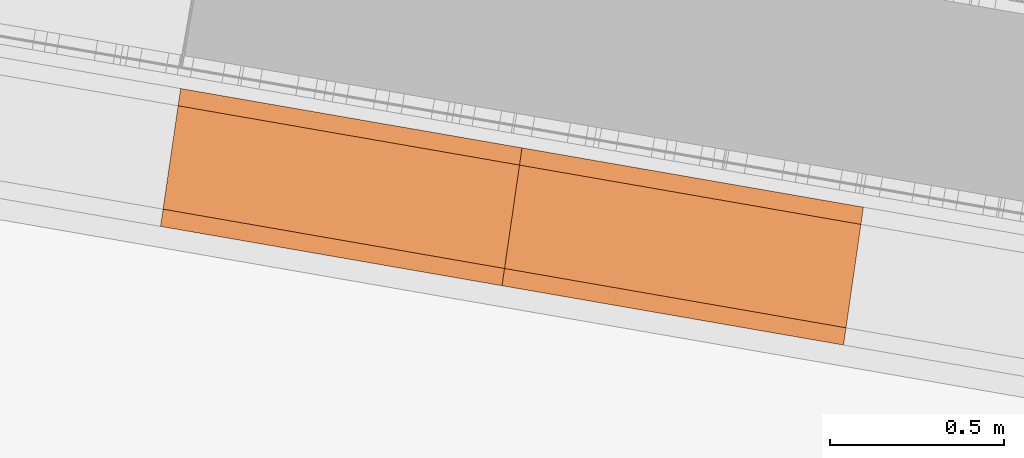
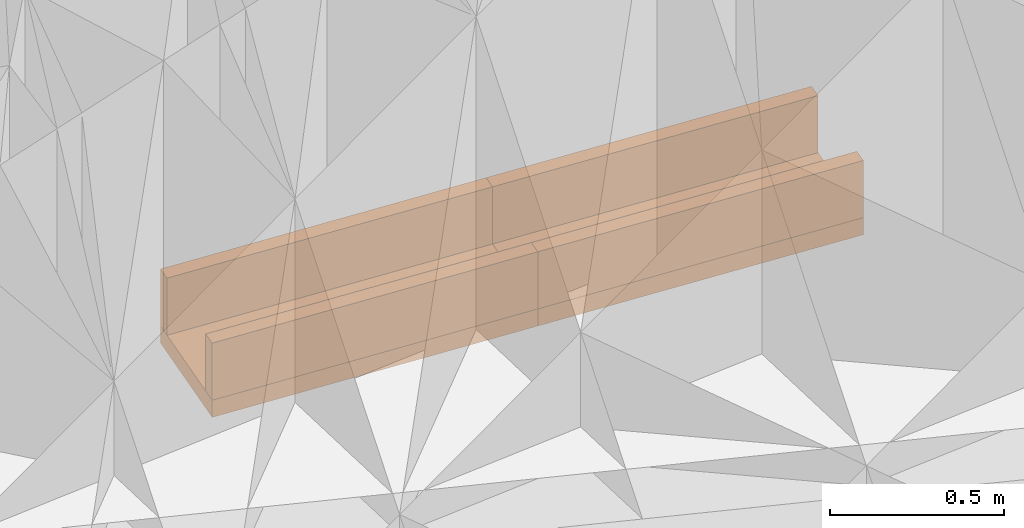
# Not in any storey, part 20 of 46: 6 proxies.
"""IFC4 model written with IfcOpenShell, lengths in metres."""

from ifc_helpers import new_model, si_unit, direction, frame, origin_with_axes, place, context, subcontext, project, spatial, polygons, material, element, save


model = new_model("IFC4")

# Units and contexts
model_context = context("Model", 3, precision=1e-05, world=origin_with_axes(), true_north=direction((0.0, 1.0)))
body_context = subcontext(model_context, "Body", "Model", "MODEL_VIEW")
ifc_project = project(units=[si_unit("VOLUMEUNIT", "CUBIC_METRE"), si_unit("LENGTHUNIT", "METRE"), si_unit("AREAUNIT", "SQUARE_METRE")], contexts=[model_context])

# Site
site_placement = place(None, origin_with_axes())
site = spatial("IfcSite", under=ifc_project, at=site_placement, Name="Lares · Rua das Mercês · artigo 4771")

# Proxies
ifc_material = material(Name="Caleiras · betão", Category="concrete")
proxy_1_placement = place(site_placement, frame((0.0, 0.0, 0.0), z_axis=(0.0, 0.0, 1.0), x_axis=(1.0, -1.03767253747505e-17, 0.0)))
element("IfcBuildingElementProxy", 1, at=proxy_1_placement, inside=site, material=ifc_material, Name="Acesso · canal lateral", ObjectType="Acesso · canal lateral", PredefinedType="USERDEFINED", context=body_context, shape_type="Tessellation", body=[
    polygons([(50.8592232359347, 11.2561532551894, 13.4), (50.9168276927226, 11.6519836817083, 13.4), (51.8972603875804, 11.4816580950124, 13.48), (51.8396559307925, 11.0858276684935, 13.48), (50.8592232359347, 11.2561532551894, 13.46), (50.9168276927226, 11.6519836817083, 13.46), (51.8972603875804, 11.4816580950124, 13.54), (51.8396559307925, 11.0858276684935, 13.54)], [[[4, 3, 2, 1]], [[5, 6, 7, 8]], [[1, 2, 6, 5]], [[2, 3, 7, 6]], [[3, 4, 8, 7]], [[4, 1, 5, 8]]]),
])
proxy_2_placement = place(site_placement, frame((0.0, 0.0, 0.0), z_axis=(0.0, 0.0, 1.0), x_axis=(1.0, -1.03767253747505e-17, 0.0)))
element("IfcBuildingElementProxy", 2, at=proxy_2_placement, inside=site, material=ifc_material, Name="Acesso · canal lateral", ObjectType="Acesso · canal lateral", PredefinedType="USERDEFINED", context=body_context, shape_type="Tessellation", body=[
    polygons([(50.8592232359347, 11.2561532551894, 13.46), (50.8664237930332, 11.3056320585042, 13.46), (51.846856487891, 11.1353064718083, 13.54), (51.8396559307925, 11.0858276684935, 13.54), (50.8592232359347, 11.2561532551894, 13.66), (50.8664237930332, 11.3056320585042, 13.66), (51.846856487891, 11.1353064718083, 13.74), (51.8396559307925, 11.0858276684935, 13.74)], [[[4, 3, 2, 1]], [[5, 6, 7, 8]], [[1, 2, 6, 5]], [[2, 3, 7, 6]], [[3, 4, 8, 7]], [[4, 1, 5, 8]]]),
])
proxy_3_placement = place(site_placement, frame((0.0, 0.0, 0.0), z_axis=(0.0, 0.0, 1.0), x_axis=(1.0, -1.03767253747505e-17, 0.0)))
element("IfcBuildingElementProxy", 3, at=proxy_3_placement, inside=site, material=ifc_material, Name="Acesso · canal lateral", ObjectType="Acesso · canal lateral", PredefinedType="USERDEFINED", context=body_context, shape_type="Tessellation", body=[
    polygons([(50.9096271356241, 11.6025048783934, 13.46), (50.9168276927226, 11.6519836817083, 13.46), (51.8972603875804, 11.4816580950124, 13.54), (51.8900598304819, 11.4321792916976, 13.54), (50.9096271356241, 11.6025048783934, 13.66), (50.9168276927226, 11.6519836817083, 13.66), (51.8972603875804, 11.4816580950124, 13.74), (51.8900598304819, 11.4321792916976, 13.74)], [[[4, 3, 2, 1]], [[5, 6, 7, 8]], [[1, 2, 6, 5]], [[2, 3, 7, 6]], [[3, 4, 8, 7]], [[4, 1, 5, 8]]]),
])
proxy_4_placement = place(site_placement, frame((0.0, 0.0, 0.0), z_axis=(0.0, 0.0, 1.0), x_axis=(1.0, -1.03767253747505e-17, 0.0)))
element("IfcBuildingElementProxy", 4, at=proxy_4_placement, inside=site, material=ifc_material, Name="Acesso · canal lateral", ObjectType="Acesso · canal lateral", PredefinedType="USERDEFINED", context=body_context, shape_type="Tessellation", body=[
    polygons([(51.8398849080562, 11.0857944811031, 13.48), (51.8970314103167, 11.4816912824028, 13.48), (52.8774568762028, 11.3113663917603, 13.56), (52.8203103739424, 10.9154695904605, 13.56), (51.8398849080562, 11.0857944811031, 13.54), (51.8970314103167, 11.4816912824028, 13.54), (52.8774568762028, 11.3113663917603, 13.62), (52.8203103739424, 10.9154695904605, 13.62)], [[[4, 3, 2, 1]], [[5, 6, 7, 8]], [[1, 2, 6, 5]], [[2, 3, 7, 6]], [[3, 4, 8, 7]], [[4, 1, 5, 8]]]),
])
proxy_5_placement = place(site_placement, frame((0.0, 0.0, 0.0), z_axis=(0.0, 0.0, 1.0), x_axis=(1.0, -1.03767253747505e-17, 0.0)))
element("IfcBuildingElementProxy", 5, at=proxy_5_placement, inside=site, material=ifc_material, Name="Acesso · canal lateral", ObjectType="Acesso · canal lateral", PredefinedType="USERDEFINED", context=body_context, shape_type="Tessellation", body=[
    polygons([(51.8398849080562, 11.0857944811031, 13.54), (51.8470282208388, 11.1352815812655, 13.54), (52.8274536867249, 10.9649566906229, 13.62), (52.8203103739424, 10.9154695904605, 13.62), (51.8398849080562, 11.0857944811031, 13.74), (51.8470282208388, 11.1352815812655, 13.74), (52.8274536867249, 10.9649566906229, 13.82), (52.8203103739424, 10.9154695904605, 13.82)], [[[4, 3, 2, 1]], [[5, 6, 7, 8]], [[1, 2, 6, 5]], [[2, 3, 7, 6]], [[3, 4, 8, 7]], [[4, 1, 5, 8]]]),
])
proxy_6_placement = place(site_placement, frame((0.0, 0.0, 0.0), z_axis=(0.0, 0.0, 1.0), x_axis=(1.0, -1.03767253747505e-17, 0.0)))
element("IfcBuildingElementProxy", 6, at=proxy_6_placement, inside=site, material=ifc_material, Name="Acesso · canal lateral", ObjectType="Acesso · canal lateral", PredefinedType="USERDEFINED", context=body_context, shape_type="Tessellation", body=[
    polygons([(51.8898880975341, 11.4322041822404, 13.54), (51.8970314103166, 11.4816912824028, 13.54), (52.8774568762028, 11.3113663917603, 13.62), (52.8703135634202, 11.2618792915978, 13.62), (51.8898880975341, 11.4322041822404, 13.74), (51.8970314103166, 11.4816912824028, 13.74), (52.8774568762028, 11.3113663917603, 13.82), (52.8703135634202, 11.2618792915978, 13.82)], [[[4, 3, 2, 1]], [[5, 6, 7, 8]], [[1, 2, 6, 5]], [[2, 3, 7, 6]], [[3, 4, 8, 7]], [[4, 1, 5, 8]]]),
])

save(model, "model.ifc")
